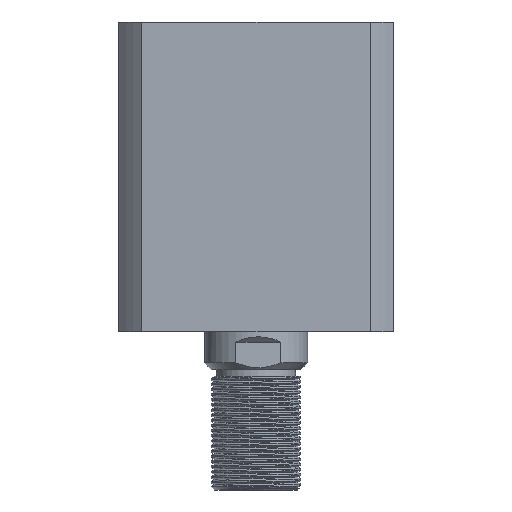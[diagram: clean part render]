
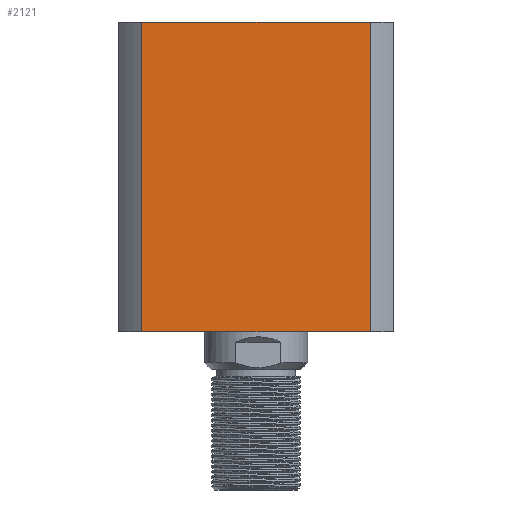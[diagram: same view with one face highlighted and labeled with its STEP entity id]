
A CAD part, left-side view. The second image highlights one B-rep face of the part: STEP entity #2121.
In plain terms, the highlighted planar face has unit normal (-1, 0, 0).
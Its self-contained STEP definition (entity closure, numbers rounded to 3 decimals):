
#127 = VECTOR ( 'NONE', #17389, 1000. ) ;
#345 = LINE ( 'NONE', #15926, #127 ) ;
#522 = VECTOR ( 'NONE', #13091, 1000. ) ;
#1108 = VERTEX_POINT ( 'NONE', #12411 ) ;
#1631 = ORIENTED_EDGE ( 'NONE', *, *, #16184, .T. ) ;
#2121 = ADVANCED_FACE ( 'NONE', ( #10209 ), #16250, .F. ) ;
#2260 = DIRECTION ( 'NONE',  ( 0., 1., 0. ) ) ;
#2293 = CARTESIAN_POINT ( 'NONE',  ( -40., 33.226, 45. ) ) ;
#2389 = EDGE_LOOP ( 'NONE', ( #1631, #4412, #10627, #4384 ) ) ;
#2575 = LINE ( 'NONE', #5863, #6679 ) ;
#3031 = DIRECTION ( 'NONE',  ( 0., -1., 0. ) ) ;
#3892 = AXIS2_PLACEMENT_3D ( 'NONE', #10647, #13533, #2260 ) ;
#4141 = EDGE_CURVE ( 'NONE', #16469, #1108, #11667, .T. ) ;
#4384 = ORIENTED_EDGE ( 'NONE', *, *, #4141, .T. ) ;
#4412 = ORIENTED_EDGE ( 'NONE', *, *, #13142, .F. ) ;
#5863 = CARTESIAN_POINT ( 'NONE',  ( -40., 33.226, 45. ) ) ;
#6214 = CARTESIAN_POINT ( 'NONE',  ( -40., 33.226, -45. ) ) ;
#6679 = VECTOR ( 'NONE', #3031, 1000. ) ;
#7376 = EDGE_CURVE ( 'NONE', #16469, #16762, #2575, .T. ) ;
#7638 = LINE ( 'NONE', #6214, #522 ) ;
#10209 = FACE_OUTER_BOUND ( 'NONE', #2389, .T. ) ;
#10627 = ORIENTED_EDGE ( 'NONE', *, *, #7376, .F. ) ;
#10647 = CARTESIAN_POINT ( 'NONE',  ( -40., 33.226, 45. ) ) ;
#11166 = CARTESIAN_POINT ( 'NONE',  ( -40., -33.226, 45. ) ) ;
#11248 = CARTESIAN_POINT ( 'NONE',  ( -40., 33.226, 45. ) ) ;
#11667 = LINE ( 'NONE', #11248, #14913 ) ;
#12411 = CARTESIAN_POINT ( 'NONE',  ( -40., 33.226, -45. ) ) ;
#12565 = DIRECTION ( 'NONE',  ( 0., 0., -1. ) ) ;
#13091 = DIRECTION ( 'NONE',  ( 0., -1., 0. ) ) ;
#13142 = EDGE_CURVE ( 'NONE', #16762, #17551, #345, .T. ) ;
#13533 = DIRECTION ( 'NONE',  ( 1., 0., 0. ) ) ;
#14913 = VECTOR ( 'NONE', #12565, 1000. ) ;
#15153 = CARTESIAN_POINT ( 'NONE',  ( -40., -33.226, -45. ) ) ;
#15926 = CARTESIAN_POINT ( 'NONE',  ( -40., -33.226, 45. ) ) ;
#16184 = EDGE_CURVE ( 'NONE', #1108, #17551, #7638, .T. ) ;
#16250 = PLANE ( 'NONE',  #3892 ) ;
#16469 = VERTEX_POINT ( 'NONE', #2293 ) ;
#16762 = VERTEX_POINT ( 'NONE', #11166 ) ;
#17389 = DIRECTION ( 'NONE',  ( 0., 0., -1. ) ) ;
#17551 = VERTEX_POINT ( 'NONE', #15153 ) ;
